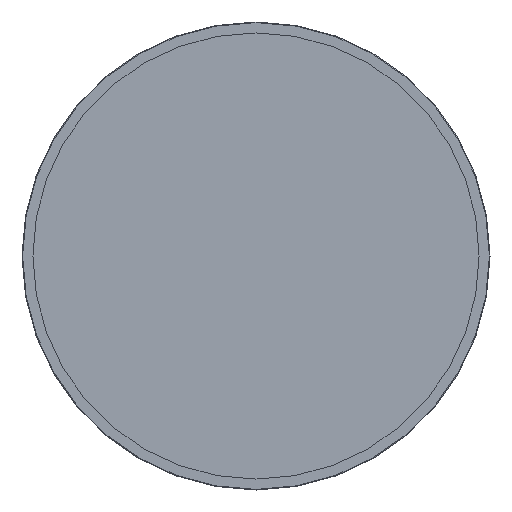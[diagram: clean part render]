
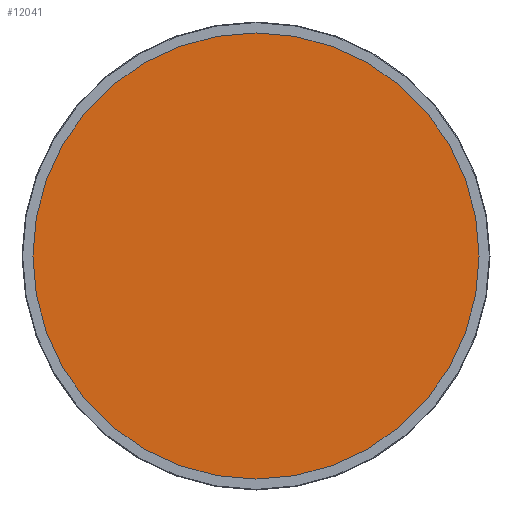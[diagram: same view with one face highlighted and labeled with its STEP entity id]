
A CAD part, front view. The second image highlights one B-rep face of the part: STEP entity #12041.
In plain terms, the highlighted planar face has unit normal (0, -1, 0).
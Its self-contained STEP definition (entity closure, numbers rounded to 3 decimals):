
#115 = AXIS2_PLACEMENT_3D ( 'NONE', #19033, #35647, #7169 ) ;
#4111 = DIRECTION ( 'NONE',  ( 1., 0., 0. ) ) ;
#5512 = CARTESIAN_POINT ( 'NONE',  ( -72.2, 0., 0. ) ) ;
#6960 = AXIS2_PLACEMENT_3D ( 'NONE', #28977, #35633, #13820 ) ;
#7169 = DIRECTION ( 'NONE',  ( -1., 0., 0. ) ) ;
#7219 = FACE_OUTER_BOUND ( 'NONE', #32207, .T. ) ;
#12041 = ADVANCED_FACE ( 'NONE', ( #7219 ), #35907, .F. ) ;
#13820 = DIRECTION ( 'NONE',  ( 1., 0., 0. ) ) ;
#15520 = EDGE_CURVE ( 'NONE', #34005, #30200, #30841, .T. ) ;
#16860 = AXIS2_PLACEMENT_3D ( 'NONE', #29035, #22804, #4111 ) ;
#19033 = CARTESIAN_POINT ( 'NONE',  ( 0., 0., 0. ) ) ;
#20132 = ORIENTED_EDGE ( 'NONE', *, *, #35368, .F. ) ;
#22804 = DIRECTION ( 'NONE',  ( 0., 1., 0. ) ) ;
#24346 = CARTESIAN_POINT ( 'NONE',  ( 72.2, 0., 0. ) ) ;
#27312 = CIRCLE ( 'NONE', #115, 72.2 ) ;
#28977 = CARTESIAN_POINT ( 'NONE',  ( 0., 0., 0. ) ) ;
#29035 = CARTESIAN_POINT ( 'NONE',  ( 0., 0., 0. ) ) ;
#30200 = VERTEX_POINT ( 'NONE', #5512 ) ;
#30841 = CIRCLE ( 'NONE', #6960, 72.2 ) ;
#32207 = EDGE_LOOP ( 'NONE', ( #20132, #40967 ) ) ;
#34005 = VERTEX_POINT ( 'NONE', #24346 ) ;
#35368 = EDGE_CURVE ( 'NONE', #30200, #34005, #27312, .T. ) ;
#35633 = DIRECTION ( 'NONE',  ( 0., 1., 0. ) ) ;
#35647 = DIRECTION ( 'NONE',  ( 0., 1., 0. ) ) ;
#35907 = PLANE ( 'NONE',  #16860 ) ;
#40967 = ORIENTED_EDGE ( 'NONE', *, *, #15520, .F. ) ;
